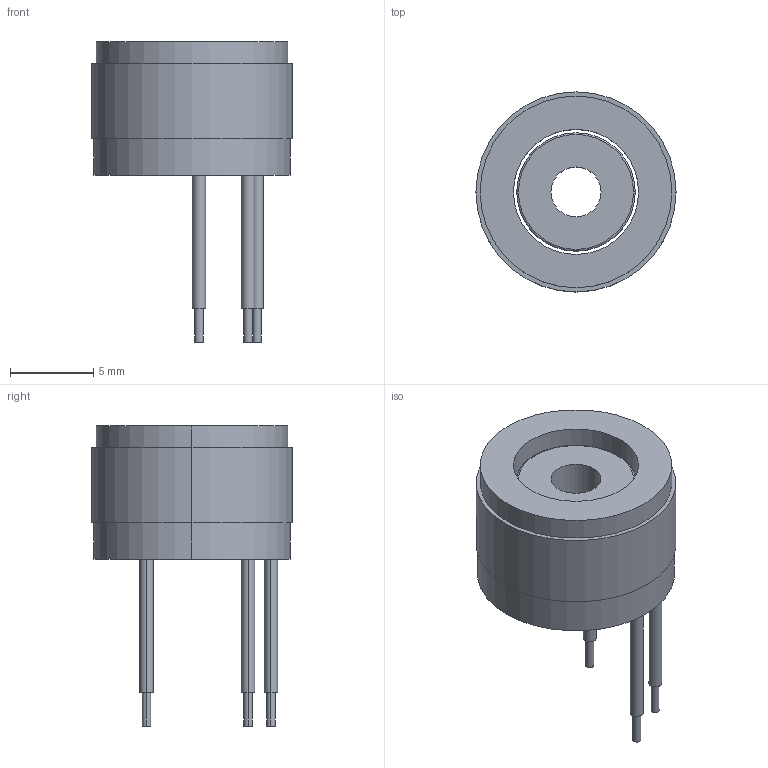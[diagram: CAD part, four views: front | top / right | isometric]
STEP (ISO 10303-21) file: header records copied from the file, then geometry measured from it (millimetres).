
FILE_DESCRIPTION (( 'STEP AP203' ), '1' );
FILE_NAME ('U1208拸遺薯撻萇儂.STEP', '2026-08-08T00:58:14', ( 'Windows User' ), ( 'P R C' ), 'SwSTEP 2.0', 'SolidWorks 2023', '' );
FILE_SCHEMA (( 'CONFIG_CONTROL_DESIGN' ));
Length unit declared in the file: millimetre
Products named in the file (1): U1208无框力矩电机
Bounding box: 12 x 12 x 18 mm (x, y, z)
Volume: 710.1 mm3; surface area: 919.2 mm2
Topology: 2 solids, 2 shells, 40 faces, 80 edges, 52 vertices
Faces by surface type: cylinder 24, plane 12, torus 4
Entity records: 1151 total; most frequent: DIRECTION 218, CARTESIAN_POINT 173, ORIENTED_EDGE 160, AXIS2_PLACEMENT_3D 97, EDGE_CURVE 80, CIRCLE 56, EDGE_LOOP 52, VERTEX_POINT 52
